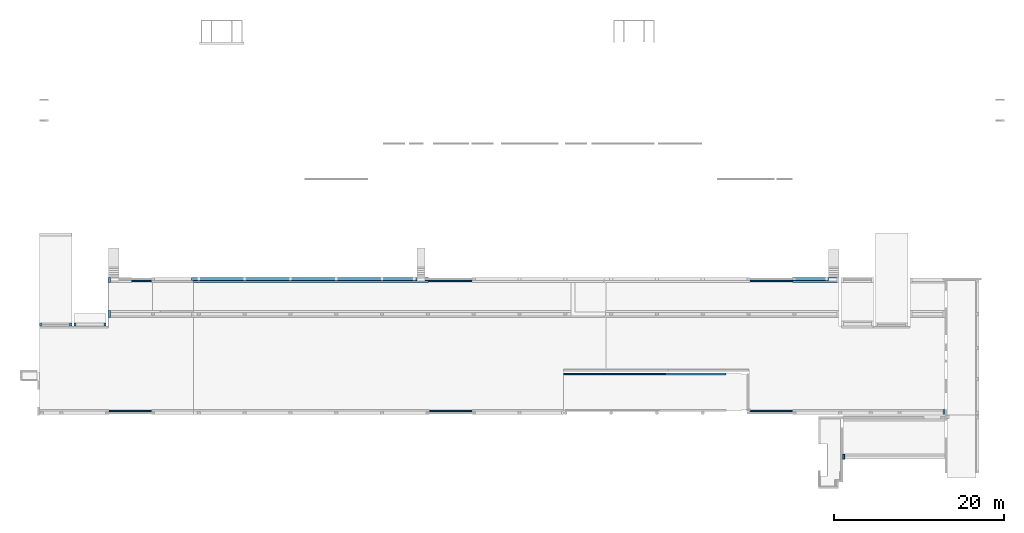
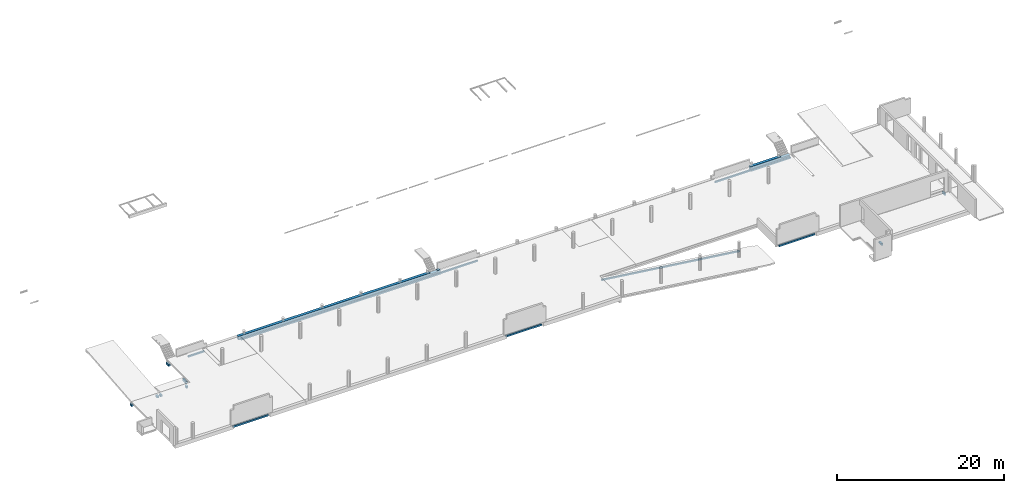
# One storey, part 7 of 9: 15 walls, 2 beams.
"""IFC2X3 building model written with IfcOpenShell, lengths in millimetres."""

from ifc_helpers import new_model, entity, si_unit, converted_unit, derived_unit, direction, frame, origin, place, context, subcontext, project, spatial, faceted_brep, material, type_object, element, save


model = new_model("IFC2X3")

# Units and contexts
model_context = context("Model", 3, precision=0.01, world=origin(), true_north=direction((6.12303176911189e-17, 1.0)))
body_context = subcontext(model_context, "Body", "Model", "MODEL_VIEW")
ifc_project = project(units=[si_unit("LENGTHUNIT", "METRE", prefix="MILLI"), si_unit("AREAUNIT", "SQUARE_METRE"), si_unit("VOLUMEUNIT", "CUBIC_METRE"), converted_unit("PLANEANGLEUNIT", "DEGREE", entity("IfcRatioMeasure", 0.0174532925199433), si_unit("PLANEANGLEUNIT", "RADIAN"), dimensions=[0, 0, 0, 0, 0, 0, 0]), si_unit("MASSUNIT", "GRAM", prefix="KILO"), derived_unit("MASSDENSITYUNIT", [(si_unit("MASSUNIT", "GRAM", prefix="KILO"), 1), (si_unit("LENGTHUNIT", "METRE"), -3)]), si_unit("TIMEUNIT", "SECOND"), si_unit("FREQUENCYUNIT", "HERTZ"), si_unit("THERMODYNAMICTEMPERATUREUNIT", "DEGREE_CELSIUS"), derived_unit("THERMALTRANSMITTANCEUNIT", [(si_unit("MASSUNIT", "GRAM", prefix="KILO"), 1), (si_unit("THERMODYNAMICTEMPERATUREUNIT", "KELVIN"), -1), (si_unit("TIMEUNIT", "SECOND"), -3)]), derived_unit("VOLUMETRICFLOWRATEUNIT", [(si_unit("LENGTHUNIT", "METRE"), 3), (si_unit("TIMEUNIT", "SECOND"), -1)]), si_unit("ELECTRICCURRENTUNIT", "AMPERE"), si_unit("ELECTRICVOLTAGEUNIT", "VOLT"), si_unit("POWERUNIT", "WATT"), si_unit("FORCEUNIT", "NEWTON", prefix="KILO"), si_unit("ILLUMINANCEUNIT", "LUX"), si_unit("LUMINOUSFLUXUNIT", "LUMEN"), si_unit("LUMINOUSINTENSITYUNIT", "CANDELA"), derived_unit("USERDEFINED", [(si_unit("MASSUNIT", "GRAM", prefix="KILO"), -1), (si_unit("LENGTHUNIT", "METRE"), -2), (si_unit("TIMEUNIT", "SECOND"), 3), (si_unit("LUMINOUSFLUXUNIT", "LUMEN"), 1)]), derived_unit("LINEARVELOCITYUNIT", [(si_unit("LENGTHUNIT", "METRE"), 1), (si_unit("TIMEUNIT", "SECOND"), -1)]), si_unit("PRESSUREUNIT", "PASCAL"), derived_unit("USERDEFINED", [(si_unit("LENGTHUNIT", "METRE"), -2), (si_unit("MASSUNIT", "GRAM", prefix="KILO"), 1), (si_unit("TIMEUNIT", "SECOND"), -2)])], contexts=[model_context])

# Site, building, storey
site_placement = place(None, origin())
site = spatial("IfcSite", under=ifc_project, at=site_placement, Name="Default", CompositionType="ELEMENT")
building_placement = place(site_placement, origin())
building = spatial("IfcBuilding", under=site, at=building_placement, Name="niet gebruiken", CompositionType="ELEMENT")
storey_placement = place(building_placement, frame((0.0, 0.0, 2770.0)))
storey = spatial("IfcBuildingStorey", under=building, at=storey_placement, Name="00a eerste tussenverdieping", CompositionType="ELEMENT", Elevation=2770.00000000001)

# Beams
ifc_material = material(Name="NLRS_f2_beton prefab")
beam_type = type_object("IfcBeamType", Name="NLRS_28.11_SF_WPB_prefabbeton balk enkele sponning_gen:600x540/200x200", PredefinedType="BEAM")
beam_1_placement = place(storey_placement, frame((26135.0, 24576.0, -530.0)))
element("IfcBeam", 1, at=beam_1_placement, inside=storey, type_object=beam_type, material=ifc_material, Name="NLRS_28.11_SF_WPB_prefabbeton balk enkele sponning_gen:600x540/200x200", ObjectType="NLRS_28.11_SF_WPB_prefabbeton balk enkele sponning_gen:600x540/200x200", context=body_context, shape_type="Brep", body=[
    faceted_brep([(0.0, 200.0, 540.0), (0.0, 600.0, 540.0), (0.0, 600.0, 0.0), (0.0, 200.0, 0.0), (27965.0, 200.0, 540.0), (27965.0, 200.0, 200.0), (27965.0, 0.0, 200.0), (27965.0, 0.0, 0.0), (27965.0, 600.0, 0.0), (27965.0, 600.0, 540.0), (27555.0, 600.0, 540.0), (27555.0, 200.0, 540.0), (27555.0, 200.0, 390.0), (26565.0, 200.0, 390.0), (26565.0, 200.0, 540.0), (235.0, 200.0, 0.0), (235.0, 200.0, 200.0), (235.0, 0.0, 200.0), (235.0, 0.0, 0.0), (26565.0, 600.0, 540.0), (26565.0, 600.0, 390.0), (27555.0, 600.0, 390.0)], [[[0, 1, 2, 3]], [[4, 5, 6, 7, 8, 9]], [[4, 9, 10, 11]], [[5, 4, 11, 12, 13, 14, 0, 3, 15, 16]], [[6, 5, 16, 17]], [[7, 6, 17, 18]], [[8, 7, 18, 15, 3, 2]], [[2, 1, 19, 20, 21, 10, 9, 8]], [[11, 10, 21, 12]], [[19, 14, 13, 20]], [[16, 15, 18, 17]], [[20, 13, 12, 21]], [[1, 0, 14, 19]]]),
])
beam_2_placement = place(storey_placement, frame((97000.0, 24576.0, -530.0)))
element("IfcBeam", 2, at=beam_2_placement, inside=storey, type_object=beam_type, material=ifc_material, Name="NLRS_28.11_SF_WPB_prefabbeton balk enkele sponning_gen:600x540/200x200", ObjectType="NLRS_28.11_SF_WPB_prefabbeton balk enkele sponning_gen:600x540/200x200", context=body_context, shape_type="Brep", body=[
    faceted_brep([(0.0, 600.0, 0.0), (0.0, 0.0, 0.0), (0.0, 0.0, 200.0), (0.0, 200.0, 200.0), (0.0, 200.0, 460.0), (0.0, 250.0, 460.0), (0.0, 250.0, 530.0), (0.0, 200.0, 530.0), (0.0, 200.0, 540.0), (0.0, 600.0, 540.0), (5455.0, 200.0, 200.0), (5455.0, 0.0, 200.0), (5455.0, 0.0, 0.0), (5455.0, 600.0, 0.0), (5455.0, 600.0, 390.0), (5455.0, 200.0, 390.0), (4205.0, 200.0, 540.0), (4205.0, 600.0, 540.0), (4205.0, 200.0, 390.0), (4205.0, 200.0, 460.0), (4205.0, 200.0, 530.0), (400.0, 200.0, 530.0), (400.0, 200.0, 460.0), (4205.0, 600.0, 390.0), (400.0, 250.0, 460.0), (400.0, 250.0, 530.0)], [[[0, 1, 2, 3, 4, 5, 6, 7, 8, 9]], [[10, 11, 12, 13, 14, 15]], [[9, 8, 16, 17]], [[3, 10, 15, 18, 19, 20, 16, 8, 7, 21, 22, 4]], [[3, 2, 11, 10]], [[2, 1, 12, 11]], [[1, 0, 13, 12]], [[0, 9, 17, 23, 14, 13]], [[17, 16, 20, 19, 18, 23]], [[22, 24, 5, 4]], [[24, 25, 6, 5]], [[25, 24, 22, 21]], [[6, 25, 21, 7]], [[23, 18, 15, 14]]]),
])

# Walls
wall_type_1 = type_object("IfcWallType", Name="NLRS_21.21_SF_WPB_oplegnok prefabbeton_gen:200x200", PredefinedType="NOTDEFINED", material=ifc_material)
wall_1_placement = place(storey_placement, frame((69990.4600699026, 13676.0, -2933.32901760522)))
element("IfcWall", 3, at=wall_1_placement, inside=storey, type_object=wall_type_1, material=ifc_material, Name="NLRS_21.21_SF_WPB_oplegnok prefabbeton_gen:200x200", ObjectType="NLRS_21.21_SF_WPB_oplegnok prefabbeton_gen:200x200", context=body_context, shape_type="Brep", body=[
    faceted_brep([(19134.9797436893, 0.0, 198.375441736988), (19109.5399300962, 0.0, 0.0), (19109.5399300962, 180.0, 0.0), (19109.5399300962, 200.0, 0.0), (19134.9797436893, 200.0, 198.375441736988), (19134.9797436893, 180.0, 198.375441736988), (25.4398135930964, 200.0, 2648.99699758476), (25.4398135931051, 200.0, 2447.35913530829), (25.4398135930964, 0.0, 2648.99699758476), (25.4398135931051, 0.0, 2447.3591353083)], [[[0, 1, 2, 3, 4, 5]], [[6, 4, 3, 7]], [[1, 0, 8, 9]], [[4, 6, 8, 0, 5]], [[1, 9, 7, 3, 2]], [[6, 7, 9, 8]]]),
])
wall_type_2 = type_object("IfcWallType", Name="NLRS_21.21_SF_WPB_oplegnok prefabbeton_gen:250x310", PredefinedType="NOTDEFINED", material=ifc_material)
wall_2_placement = place(storey_placement, frame((16325.0, 20446.0, -850.0), z_axis=(0.0, 0.0, 1.0), x_axis=(0.0, 1.0, 0.0)))
element("IfcWall", 4, at=wall_2_placement, inside=storey, type_object=wall_type_2, material=ifc_material, Name="NLRS_21.21_SF_WPB_oplegnok prefabbeton_gen:250x310", ObjectType="NLRS_21.21_SF_WPB_oplegnok prefabbeton_gen:250x310", context=body_context, shape_type="Brep", body=[
    faceted_brep([(0.0, 0.0, 310.0), (0.0, 0.0, 0.0), (0.0, -250.0, 39.9987607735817), (0.0, -250.0, 310.0), (800.0, 0.0, 310.0), (800.0, -250.0, 310.0), (800.0, -250.0, 39.9987607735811), (800.0, 0.0, 0.0)], [[[0, 1, 2, 3]], [[4, 5, 6, 7]], [[1, 0, 4, 7]], [[3, 2, 6, 5]], [[0, 3, 5, 4]], [[2, 1, 7, 6]]]),
])
wall_3_placement = place(storey_placement, frame((16325.0, 24576.0, -850.0), z_axis=(0.0, 0.0, 1.0), x_axis=(0.0, 1.0, 0.0)))
element("IfcWall", 5, at=wall_3_placement, inside=storey, type_object=wall_type_2, material=ifc_material, Name="NLRS_21.21_SF_WPB_oplegnok prefabbeton_gen:250x310", ObjectType="NLRS_21.21_SF_WPB_oplegnok prefabbeton_gen:250x310", context=body_context, shape_type="Brep", body=[
    faceted_brep([(0.0, 0.0, 310.0), (0.0, 0.0, 0.0), (0.0, -250.0, 39.9987607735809), (0.0, -250.0, 310.0), (600.0, 0.0, 310.0), (600.0, -250.0, 310.0), (600.0, -250.0, 39.9987607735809), (600.0, 0.0, 0.0)], [[[0, 1, 2, 3]], [[4, 5, 6, 7]], [[1, 0, 4, 7]], [[3, 2, 6, 5]], [[0, 3, 5, 4]], [[2, 1, 7, 6]]]),
])
wall_4_placement = place(storey_placement, frame((102900.0, 3740.0, -850.0), z_axis=(0.0, 0.0, 1.0), x_axis=(0.0, 1.0, 0.0)))
element("IfcWall", 6, at=wall_4_placement, inside=storey, type_object=wall_type_2, material=ifc_material, Name="NLRS_21.21_SF_WPB_oplegnok prefabbeton_gen:250x310", ObjectType="NLRS_21.21_SF_WPB_oplegnok prefabbeton_gen:250x310", context=body_context, shape_type="Brep", body=[
    faceted_brep([(0.0, -250.0, 0.0), (0.0, -250.0, 310.0), (0.0, -25.0, 310.0), (0.0, -25.0, 35.9988846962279), (600.0, -250.0, 310.0), (600.0, -250.0, 0.0), (600.0, -25.0, 35.9988846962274), (600.0, -25.0, 310.0)], [[[0, 1, 2, 3]], [[4, 5, 6, 7]], [[1, 0, 5, 4]], [[1, 4, 7, 2]], [[5, 0, 3, 6]], [[3, 2, 7, 6]]]),
])
wall_5_placement = place(storey_placement, frame((114700.0, 8996.0, -850.0), z_axis=(0.0, 0.0, 1.0), x_axis=(0.0, 1.0, 0.0)))
element("IfcWall", 7, at=wall_5_placement, inside=storey, type_object=wall_type_2, material=ifc_material, Name="NLRS_21.21_SF_WPB_oplegnok prefabbeton_gen:250x310", ObjectType="NLRS_21.21_SF_WPB_oplegnok prefabbeton_gen:250x310", context=body_context, shape_type="Brep", body=[
    faceted_brep([(0.0, -250.0, 310.0), (0.0, 0.0, 310.0), (0.0, 0.0, 39.9987607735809), (0.0, -250.0, 0.0), (600.0, -250.0, 310.0), (600.0, -250.0, 0.0), (600.0, 0.0, 39.9987607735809), (600.0, 0.0, 310.0)], [[[0, 1, 2, 3]], [[4, 5, 6, 7]], [[3, 5, 4, 0]], [[1, 7, 6, 2]], [[0, 4, 7, 1]], [[2, 6, 5, 3]]]),
])
wall_type_3 = type_object("IfcWallType", Name="NLRS_21.21_SF_WPB_oplegnok prefabbeton_gen:200x250 afschuining", PredefinedType="NOTDEFINED", material=ifc_material)
wall_6_placement = place(storey_placement, frame((16420.0, 9321.0, -580.0)))
element("IfcWall", 8, at=wall_6_placement, inside=storey, type_object=wall_type_3, material=ifc_material, Name="NLRS_21.21_SF_WPB_oplegnok prefabbeton_gen:200x250 afschuining", ObjectType="NLRS_21.21_SF_WPB_oplegnok prefabbeton_gen:200x250 afschuining", context=body_context, shape_type="Brep", body=[
    faceted_brep([(4.84258180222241e-09, 0.0, 250.0), (4.84258180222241e-09, 200.0, 250.0), (4.84258180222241e-09, 200.0, 49.976844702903), (4.84258180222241e-09, 0.0, 0.0), (4.84258180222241e-09, 0.0, 10.0), (4960.0, 0.0, 250.0), (4960.0, 0.0, 10.0), (4960.0, 0.0, 0.0), (4960.0, 200.0, 49.9768447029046), (4960.0, 200.0, 250.0)], [[[0, 1, 2, 3, 4]], [[5, 6, 7, 8, 9]], [[3, 7, 6, 5, 0, 4]], [[1, 9, 8, 2]], [[0, 5, 9, 1]], [[2, 8, 7, 3]]]),
])
wall_7_placement = place(storey_placement, frame((19120.0, 24651.0, -580.0)))
element("IfcWall", 9, at=wall_7_placement, inside=storey, type_object=wall_type_3, material=ifc_material, Name="NLRS_21.21_SF_WPB_oplegnok prefabbeton_gen:200x250 afschuining", ObjectType="NLRS_21.21_SF_WPB_oplegnok prefabbeton_gen:200x250 afschuining", context=body_context, shape_type="Brep", body=[
    faceted_brep([(0.0, 200.0, 250.0), (0.0, 200.0, 30.0), (0.0, 200.0, 0.0), (0.0, 0.0, 49.976844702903), (0.0, 0.0, 250.0), (2260.0, 200.0, 250.0), (2260.0, 0.0, 250.0), (2260.0, 0.0, 49.9768447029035), (2260.0, 200.0, 0.0), (2260.0, 200.0, 30.0)], [[[0, 1, 2, 3, 4]], [[5, 6, 7, 8, 9]], [[2, 1, 0, 5, 9, 8]], [[4, 3, 7, 6]], [[0, 4, 6, 5]], [[3, 2, 8, 7]]]),
])
wall_8_placement = place(storey_placement, frame((54120.0, 24651.0, -580.0)))
element("IfcWall", 10, at=wall_8_placement, inside=storey, type_object=wall_type_3, material=ifc_material, Name="NLRS_21.21_SF_WPB_oplegnok prefabbeton_gen:200x250 afschuining", ObjectType="NLRS_21.21_SF_WPB_oplegnok prefabbeton_gen:200x250 afschuining", context=body_context, shape_type="Brep", body=[
    faceted_brep([(0.0, 200.0, 250.0), (0.0, 200.0, 30.0), (0.0, 200.0, 0.0), (0.0, 0.0, 49.976844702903), (0.0, 0.0, 250.0), (5060.0, 200.0, 250.0), (5060.0, 0.0, 250.0), (5060.0, 0.0, 49.9768447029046), (5060.0, 200.0, 0.0), (5060.0, 200.0, 30.0)], [[[0, 1, 2, 3, 4]], [[5, 6, 7, 8, 9]], [[2, 1, 0, 5, 9, 8]], [[4, 3, 7, 6]], [[0, 4, 6, 5]], [[3, 2, 8, 7]]]),
])
wall_9_placement = place(storey_placement, frame((92020.0, 24651.0, -580.0)))
element("IfcWall", 11, at=wall_9_placement, inside=storey, type_object=wall_type_3, material=ifc_material, Name="NLRS_21.21_SF_WPB_oplegnok prefabbeton_gen:200x250 afschuining", ObjectType="NLRS_21.21_SF_WPB_oplegnok prefabbeton_gen:200x250 afschuining", context=body_context, shape_type="Brep", body=[
    faceted_brep([(0.0, 200.0, 250.0), (0.0, 200.0, 30.0), (0.0, 200.0, 0.0), (0.0, 0.0, 49.976844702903), (0.0, 0.0, 250.0), (4960.0, 200.0, 250.0), (4960.0, 0.0, 250.0), (4960.0, 0.0, 49.9768447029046), (4960.0, 200.0, 0.0), (4960.0, 200.0, 30.0)], [[[0, 1, 2, 3, 4]], [[5, 6, 7, 8, 9]], [[2, 1, 0, 5, 9, 8]], [[4, 3, 7, 6]], [[0, 4, 6, 5]], [[3, 2, 8, 7]]]),
])
wall_10_placement = place(storey_placement, frame((92020.0, 9321.0, -580.0)))
element("IfcWall", 12, at=wall_10_placement, inside=storey, type_object=wall_type_3, material=ifc_material, Name="NLRS_21.21_SF_WPB_oplegnok prefabbeton_gen:200x250 afschuining", ObjectType="NLRS_21.21_SF_WPB_oplegnok prefabbeton_gen:200x250 afschuining", context=body_context, shape_type="Brep", body=[
    faceted_brep([(0.0, 0.0, 250.0), (0.0, 200.0, 250.0), (0.0, 200.0, 49.976844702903), (0.0, 0.0, 0.0), (4960.0, 0.0, 250.0), (4960.0, 0.0, 30.0), (4960.0, 0.0, 0.0), (4960.0, 200.0, 49.9768447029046), (4960.0, 200.0, 250.0)], [[[0, 1, 2, 3]], [[4, 5, 6, 7, 8]], [[3, 6, 5, 4, 0]], [[1, 8, 7, 2]], [[0, 4, 8, 1]], [[2, 7, 6, 3]]]),
])
wall_11_placement = place(storey_placement, frame((54220.0, 9321.0, -580.0)))
element("IfcWall", 13, at=wall_11_placement, inside=storey, type_object=wall_type_3, material=ifc_material, Name="NLRS_21.21_SF_WPB_oplegnok prefabbeton_gen:200x250 afschuining", ObjectType="NLRS_21.21_SF_WPB_oplegnok prefabbeton_gen:200x250 afschuining", context=body_context, shape_type="Brep", body=[
    faceted_brep([(0.0, 0.0, 250.0), (0.0, 200.0, 250.0), (0.0, 200.0, 49.976844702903), (0.0, 0.0, 0.0), (0.0, 0.0, 30.0), (4960.0, 0.0, 250.0), (4960.0, 0.0, 30.0), (4960.0, 0.0, 0.0), (4960.0, 200.0, 49.9768447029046), (4960.0, 200.0, 250.0)], [[[0, 1, 2, 3, 4]], [[5, 6, 7, 8, 9]], [[3, 7, 6, 5, 0, 4]], [[1, 9, 8, 2]], [[0, 5, 9, 1]], [[2, 8, 7, 3]]]),
])
wall_type_4 = type_object("IfcWallType", Name="NLRS_21.21_SF_WPB_oplegnok prefabbeton_gen:250x270 met afschuining 9gr", PredefinedType="NOTDEFINED", material=ifc_material)
wall_12_placement = place(storey_placement, frame((12275.0, 19426.0, -770.0), z_axis=(0.0, 0.0, 1.0), x_axis=(0.0, 1.0, 0.0)))
element("IfcWall", 14, at=wall_12_placement, inside=storey, type_object=wall_type_4, material=ifc_material, Name="NLRS_21.21_SF_WPB_oplegnok prefabbeton_gen:250x270 met afschuining 9gr", ObjectType="NLRS_21.21_SF_WPB_oplegnok prefabbeton_gen:250x270 met afschuining 9gr", context=body_context, shape_type="Brep", body=[
    faceted_brep([(0.0, 0.0, 310.0), (0.0, 0.0, 0.0), (0.0, -250.0, 39.5961100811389), (0.0, -250.0, 310.0), (380.0, 0.0, 310.0), (380.0, -250.0, 310.0), (380.0, -250.0, 39.5961100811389), (380.0, 0.0, 0.0)], [[[0, 1, 2, 3]], [[4, 5, 6, 7]], [[1, 0, 4, 7]], [[3, 2, 6, 5]], [[0, 3, 5, 4]], [[2, 1, 7, 6]]]),
])
wall_13_placement = place(storey_placement, frame((11775.0, 19426.0, -770.0), z_axis=(0.0, 0.0, 1.0), x_axis=(0.0, 1.0, 0.0)))
element("IfcWall", 15, at=wall_13_placement, inside=storey, type_object=wall_type_4, material=ifc_material, Name="NLRS_21.21_SF_WPB_oplegnok prefabbeton_gen:250x270 met afschuining 9gr", ObjectType="NLRS_21.21_SF_WPB_oplegnok prefabbeton_gen:250x270 met afschuining 9gr", context=body_context, shape_type="Brep", body=[
    faceted_brep([(0.0, -250.0, 310.0), (0.0, 0.0, 310.0), (0.0, 0.0, 39.5961100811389), (0.0, -250.0, 0.0), (380.0, -250.0, 310.0), (380.0, -250.0, 0.0), (380.0, 0.0, 39.5961100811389), (380.0, 0.0, 310.0)], [[[0, 1, 2, 3]], [[4, 5, 6, 7]], [[3, 5, 4, 0]], [[1, 7, 6, 2]], [[0, 4, 7, 1]], [[2, 6, 5, 3]]]),
])
wall_14_placement = place(storey_placement, frame((8225.0, 19426.0, -770.0), z_axis=(0.0, 0.0, 1.0), x_axis=(0.0, 1.0, 0.0)))
element("IfcWall", 16, at=wall_14_placement, inside=storey, type_object=wall_type_4, material=ifc_material, Name="NLRS_21.21_SF_WPB_oplegnok prefabbeton_gen:250x270 met afschuining 9gr", ObjectType="NLRS_21.21_SF_WPB_oplegnok prefabbeton_gen:250x270 met afschuining 9gr", context=body_context, shape_type="Brep", body=[
    faceted_brep([(0.0, 0.0, 310.0), (0.0, 0.0, 0.0), (0.0, -250.0, 39.5961100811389), (0.0, -250.0, 310.0), (380.0, 0.0, 310.0), (380.0, -250.0, 310.0), (380.0, -250.0, 39.5961100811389), (380.0, 0.0, 0.0)], [[[0, 1, 2, 3]], [[4, 5, 6, 7]], [[1, 0, 4, 7]], [[3, 2, 6, 5]], [[0, 3, 5, 4]], [[2, 1, 7, 6]]]),
])
wall_15_placement = place(storey_placement, frame((15825.0, 19426.0, -770.0), z_axis=(0.0, 0.0, 1.0), x_axis=(0.0, 1.0, 0.0)))
element("IfcWall", 17, at=wall_15_placement, inside=storey, type_object=wall_type_4, material=ifc_material, Name="NLRS_21.21_SF_WPB_oplegnok prefabbeton_gen:250x270 met afschuining 9gr", ObjectType="NLRS_21.21_SF_WPB_oplegnok prefabbeton_gen:250x270 met afschuining 9gr", context=body_context, shape_type="Brep", body=[
    faceted_brep([(0.0, -250.0, 310.0), (0.0, 0.0, 310.0), (0.0, 0.0, 39.5961100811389), (0.0, -250.0, 0.0), (380.0, -250.0, 310.0), (380.0, -250.0, 0.0), (380.0, 0.0, 39.5961100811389), (380.0, 0.0, 310.0)], [[[0, 1, 2, 3]], [[4, 5, 6, 7]], [[3, 5, 4, 0]], [[1, 7, 6, 2]], [[0, 4, 7, 1]], [[2, 6, 5, 3]]]),
])

save(model, "model.ifc")
